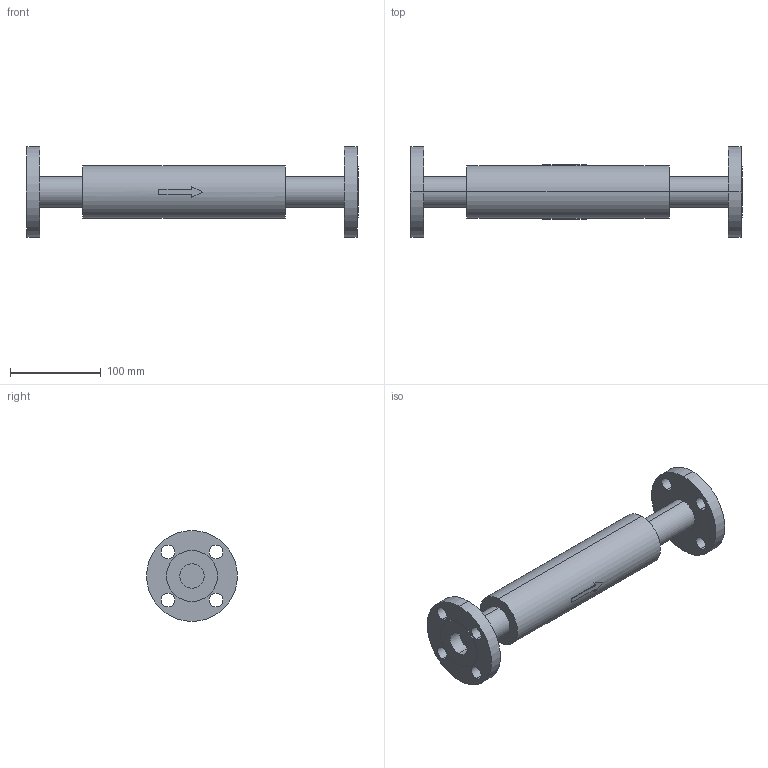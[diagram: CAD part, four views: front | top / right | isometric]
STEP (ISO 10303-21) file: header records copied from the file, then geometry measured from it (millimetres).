
FILE_DESCRIPTION( (''), '2;1');
FILE_NAME ('PC1027.11244.EB-1J　20A_32068.stp','2025-07-25T09:39:41',(''),(''),'spGate 19.8.4 (****-****-****-****)','','');
FILE_SCHEMA (('AUTOMOTIVE_DESIGN'));
Length unit declared in the file: millimetre
Bounding box: 365 x 100 x 100 mm (x, y, z)
Volume: 882954.8 mm3; surface area: 100160.5 mm2
Topology: 1 solids, 1 shells, 60 faces, 146 edges, 98 vertices
Faces by surface type: cylinder 34, plane 26
Entity records: 2989 total; most frequent: CARTESIAN_POINT 346, DIRECTION 304, ORIENTED_EDGE 292, COLOUR_RGB 207, PRESENTATION_STYLE_ASSIGNMENT 207, STYLED_ITEM 207, EDGE_CURVE 146, DRAUGHTING_PRE_DEFINED_CURVE_FONT 146
